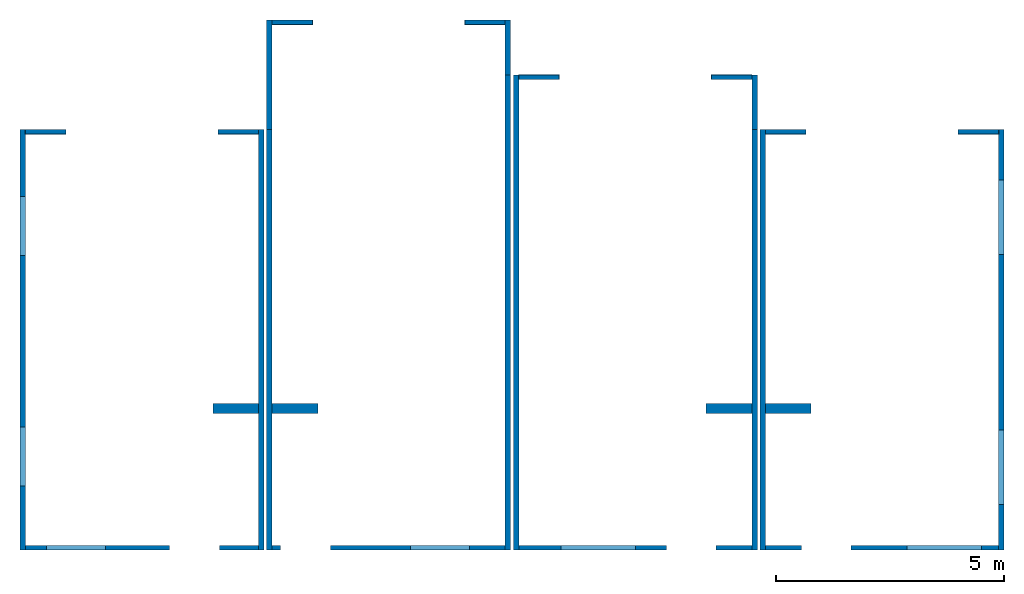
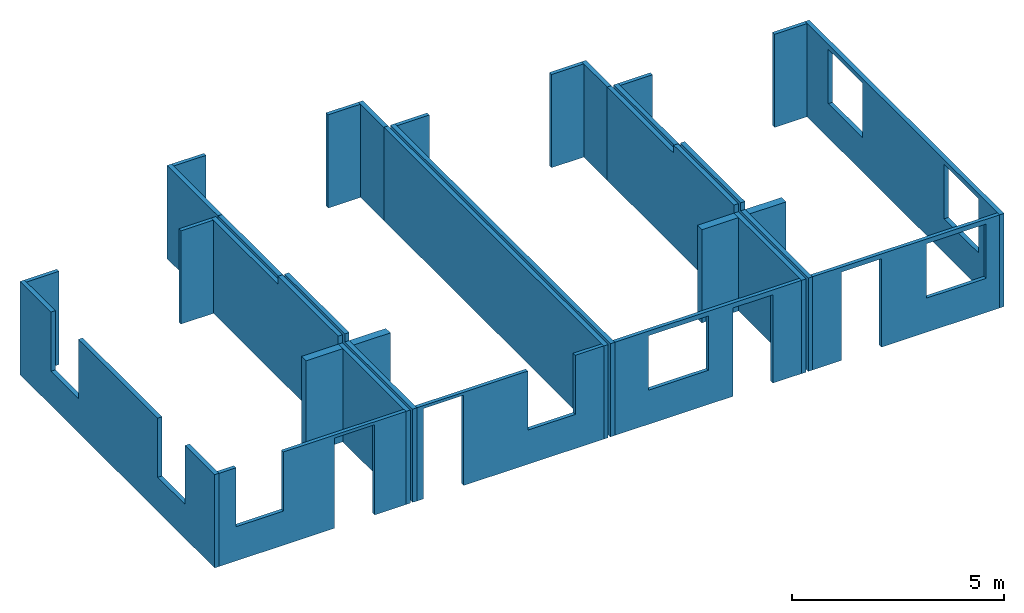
# One storey: 23 walls, 24 openings.
"""IFC2X3 building model written with IfcOpenShell, lengths in millimetres."""

import ifcopenshell
import ifcopenshell.guid

model = None  # the IFC model being written
_history = None  # IfcOwnerHistory: only IFC2X3 demands one
_inside = {}  # id of a spatial element -> (the spatial element, [elements in it])
_under = {}  # id of a project, library or spatial element -> (it, [spatial elements below it])
_declared = {}  # id of a project -> (the project, [libraries it declares])
_typed = {}  # id of a type object -> (the type object, [elements of that type])
_made_of = {}  # id of a material, layer set ... -> (it, [elements and type objects made of it])


def new_model(schema):
    """Start an empty IFC model of exactly this schema.

    Asked for "IFC4X3", IfcOpenShell would pick the latest addendum, in which some entities
    have other attributes; the version numbers below select the first issue.
    IFC2X3 requires an IfcOwnerHistory on every rooted entity: one is made here for all.
    """
    global model, _history
    if schema == "IFC4X3":
        model = ifcopenshell.file(schema_version=(4, 3, 0, 0))
    else:
        model = ifcopenshell.file(schema=schema)
    _inside.clear()
    _under.clear()
    _declared.clear()
    _typed.clear()
    _made_of.clear()
    _history = None
    if model.schema == "IFC2X3":
        org = make("IfcOrganization", Name="unknown")
        user = make(
            "IfcPersonAndOrganization",
            ThePerson=make("IfcPerson", FamilyName="unknown"),
            TheOrganization=org,
        )
        app = make(
            "IfcApplication",
            ApplicationDeveloper=org,
            Version="unknown",
            ApplicationFullName="unknown",
            ApplicationIdentifier="unknown",
        )
        _history = make(
            "IfcOwnerHistory",
            OwningUser=user,
            OwningApplication=app,
            ChangeAction="ADDED",
            CreationDate=0,
        )
    return model


def make(cls, **values):
    """One entity of the class cls with the attributes given. An attribute that is None is left unset."""
    return model.create_entity(
        cls, **{name: value for name, value in values.items() if value is not None}
    )


def entity(cls, *values):
    """Any entity or typed value of the class cls, its attributes in the order of the schema. None: left unset."""
    e = model.create_entity(cls)
    for i, value in enumerate(values):
        if value is not None:
            e[i] = value
    return e


def rooted(cls, **values):
    """An entity with a GlobalId (a new one), such as an element, a storey or a relation."""
    return make(cls, GlobalId=ifcopenshell.guid.new(), OwnerHistory=_history, **values)


def si_unit(unit_type, name, prefix=None):
    """IfcSIUnit, for example si_unit("LENGTHUNIT", "METRE", prefix="MILLI")."""
    return make("IfcSIUnit", UnitType=unit_type, Prefix=prefix, Name=name)


def converted_unit(unit_type, name, factor, base, dimensions=None, offset=None):
    """IfcConversionBasedUnit, such as the inch: factor (a typed value) times the base unit."""
    return make(
        "IfcConversionBasedUnit"
        if offset is None
        else "IfcConversionBasedUnitWithOffset",
        ConversionOffset=offset,
        Dimensions=None
        if dimensions is None
        else entity("IfcDimensionalExponents", *dimensions),
        UnitType=unit_type,
        Name=name,
        ConversionFactor=make(
            "IfcMeasureWithUnit", ValueComponent=factor, UnitComponent=base
        ),
    )


def derived_unit(unit_type, elements):
    """IfcDerivedUnit: a product of units, each with its exponent."""
    return make(
        "IfcDerivedUnit",
        Elements=[
            make("IfcDerivedUnitElement", Unit=unit, Exponent=power)
            for unit, power in elements
        ],
        UnitType=unit_type,
    )


def assignment(units):
    """IfcUnitAssignment: the units of a project."""
    return None if units is None else make("IfcUnitAssignment", Units=units)


def point(xyz):
    """IfcCartesianPoint."""
    return None if xyz is None else make("IfcCartesianPoint", Coordinates=xyz)


def direction(xyz):
    """IfcDirection."""
    return None if xyz is None else make("IfcDirection", DirectionRatios=xyz)


def frame(location, z_axis=None, x_axis=None):
    """IfcAxis2Placement3D, a coordinate frame: its origin and axes. An axis left out is left unset."""
    return make(
        "IfcAxis2Placement3D",
        Location=point(location),
        Axis=direction(z_axis),
        RefDirection=direction(x_axis),
    )


def frame_2d(location, x_axis=None):
    """IfcAxis2Placement2D, a coordinate frame in the plane: its origin and x axis."""
    return make(
        "IfcAxis2Placement2D", Location=point(location), RefDirection=direction(x_axis)
    )


def origin():
    """The frame at (0, 0, 0) with its axes left unset."""
    return frame((0.0, 0.0, 0.0))


def origin_with_axes():
    """The frame at (0, 0, 0) with the z axis (0, 0, 1) and the x axis (1, 0, 0) written out."""
    return frame((0.0, 0.0, 0.0), z_axis=(0.0, 0.0, 1.0), x_axis=(1.0, 0.0, 0.0))


def origin_2d_with_axis():
    """The frame at (0, 0) in the plane with the x axis (1, 0) written out."""
    return frame_2d((0.0, 0.0), x_axis=(1.0, 0.0))


def place(relative_to, where):
    """IfcLocalPlacement: puts the frame where relative to a parent placement (None: the world)."""
    return make(
        "IfcLocalPlacement", PlacementRelTo=relative_to, RelativePlacement=where
    )


def context(
    kind, dimensions, precision=None, world=None, true_north=None, identifier=None
):
    """IfcGeometricRepresentationContext, for example the 3D "Model" context."""
    return make(
        "IfcGeometricRepresentationContext",
        ContextIdentifier=identifier,
        ContextType=kind,
        CoordinateSpaceDimension=dimensions,
        Precision=precision,
        WorldCoordinateSystem=world,
        TrueNorth=true_north,
    )


def subcontext(parent, identifier, kind, view, scale=None):
    """IfcGeometricRepresentationSubContext, for example "Body" below "Model"."""
    return make(
        "IfcGeometricRepresentationSubContext",
        ContextIdentifier=identifier,
        ContextType=kind,
        ParentContext=parent,
        TargetScale=scale,
        TargetView=view,
    )


def project(units=None, contexts=None):
    """IfcProject with its units and contexts."""
    return rooted(
        "IfcProject",
        Name="project",
        RepresentationContexts=contexts,
        UnitsInContext=assignment(units),
    )


def spatial(cls, under=None, at=None, **own):
    """A site, building, storey or space (cls), placed at a placement, below another one or the project."""
    s = rooted(cls, ObjectPlacement=at, **own)
    if under is not None:
        _under.setdefault(under.id(), (under, []))[1].append(s)
    return s


def profile(cls, at=None, kind="AREA", **sizes):
    """A parametric profile (cls). Its sizes go by their IFC names, for example OverallWidth=200.0."""
    return make(cls, ProfileType=kind, Position=at, **sizes)


def rectangle(**sizes):
    """IfcRectangleProfileDef."""
    return profile("IfcRectangleProfileDef", **sizes)


def extrude(swept, where, along, depth):
    """IfcExtrudedAreaSolid: the profile swept, set in the frame where, extruded along a direction by depth."""
    return make(
        "IfcExtrudedAreaSolid",
        SweptArea=swept,
        Position=where,
        ExtrudedDirection=direction(along),
        Depth=depth,
    )


def shape(context_of_items, identifier, shape_type, items):
    """IfcShapeRepresentation: the items that make up one representation, for example the "Body"."""
    return make(
        "IfcShapeRepresentation",
        ContextOfItems=context_of_items,
        RepresentationIdentifier=identifier,
        RepresentationType=shape_type,
        Items=items,
    )


def material(Name=None, Category=None):
    """IfcMaterial."""
    return make("IfcMaterial", Name=Name, Category=Category)


def layer(
    of_material, thickness, ventilated=None, Name=None, Category=None, Priority=None
):
    """IfcMaterialLayer: one layer of a wall or slab, of a material (None: an air gap)."""
    return make(
        "IfcMaterialLayer",
        Material=of_material,
        LayerThickness=thickness,
        IsVentilated=ventilated,
        Name=Name,
        Category=Category,
        Priority=Priority,
    )


def layer_set(layers, Name=None):
    """IfcMaterialLayerSet."""
    return make("IfcMaterialLayerSet", MaterialLayers=layers, LayerSetName=Name)


def layer_usage(for_layer_set, set_direction, sense, offset, extent=None):
    """IfcMaterialLayerSetUsage: how a layer set lies in its element."""
    return make(
        "IfcMaterialLayerSetUsage",
        ForLayerSet=for_layer_set,
        LayerSetDirection=set_direction,
        DirectionSense=sense,
        OffsetFromReferenceLine=offset,
        ReferenceExtent=extent,
    )


def made_of(thing, what):
    """Note that an element or type object is made of a material, layer set ...; save() writes the relation."""
    if what is not None:
        _made_of.setdefault(what.id(), (what, []))[1].append(thing)
    return thing


def type_object(cls, material=None, **own):
    """A type object (cls), such as IfcWallType, which elements share."""
    return made_of(rooted(cls, **own), material)


def element(
    cls,
    number,
    at=None,
    inside=None,
    cuts=None,
    type_object=None,
    material=None,
    context=None,
    identifier="Body",
    shape_type=None,
    held_by="IfcProductDefinitionShape",
    body=None,
    shapes=None,
    **own,
):
    """One element of the class cls, such as IfcWall. Its Tag is "e" and its number.

    at: its placement. inside: the storey or other place that contains it. cuts: it is an
    opening in that element (IfcRelVoidsElement). A single representation is given by context,
    identifier, shape_type and body (its items); several are given by shapes. held_by: the class
    of the entity that holds the representations. save() writes the other relations.
    """
    e = rooted(cls, Tag="e%d" % number, ObjectPlacement=at, **own)
    if body is not None:
        shapes = [shape(context, identifier, shape_type, body)]
    if shapes is not None:
        e.Representation = make(held_by, Representations=shapes)
    if inside is not None:
        _inside.setdefault(inside.id(), (inside, []))[1].append(e)
    if cuts is not None:
        rooted(
            "IfcRelVoidsElement", RelatingBuildingElement=cuts, RelatedOpeningElement=e
        )
    if type_object is not None:
        _typed.setdefault(type_object.id(), (type_object, []))[1].append(e)
    return made_of(e, material)


def aggregate(whole, parts):
    """IfcRelAggregates: a whole, such as a stair, and the parts it consists of."""
    return rooted("IfcRelAggregates", RelatingObject=whole, RelatedObjects=parts)


def save(model, path):
    """Write the relations noted so far, then the file.

    IfcRelAggregates (storeys below a building ...), IfcRelContainedInSpatialStructure (elements
    in a storey), IfcRelDefinesByType, IfcRelAssociatesMaterial and IfcRelDeclares: one each for
    every whole, place, type object, material and project.
    """
    for whole, parts in _under.values():
        aggregate(whole, parts)
    for where, things in _inside.values():
        rooted(
            "IfcRelContainedInSpatialStructure",
            RelatedElements=things,
            RelatingStructure=where,
        )
    for kind, things in _typed.values():
        rooted("IfcRelDefinesByType", RelatedObjects=things, RelatingType=kind)
    for what, things in _made_of.values():
        rooted("IfcRelAssociatesMaterial", RelatedObjects=things, RelatingMaterial=what)
    for by, libraries in _declared.values():
        rooted("IfcRelDeclares", RelatingContext=by, RelatedDefinitions=libraries)
    model.write(path)


model = new_model("IFC2X3")

# Units and contexts
model_context_1 = context("Model", 3, precision=0.01, world=origin(), true_north=direction((6.12303176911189e-17, 1.0)))
plan_context = context("Plan", 3, precision=0.01, world=origin(), true_north=direction((6.12303176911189e-17, 1.0)))
model_context_2 = context("Model", 3, precision=0.01, world=origin(), true_north=direction((6.12303176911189e-17, 1.0)))
body_context = subcontext(model_context_2, "Body", "Model", "MODEL_VIEW")
ifc_project = project(units=[converted_unit("PLANEANGLEUNIT", "DEGREE", entity("IfcPositiveLengthMeasure", 0.0174532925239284), si_unit("PLANEANGLEUNIT", "RADIAN"), dimensions=[0, 0, 0, 0, 0, 0, 0]), si_unit("AREAUNIT", "SQUARE_METRE", prefix="MILLI"), si_unit("LENGTHUNIT", "METRE", prefix="MILLI"), si_unit("MASSUNIT", "GRAM", prefix="KILO"), si_unit("POWERUNIT", "WATT"), si_unit("PRESSUREUNIT", "PASCAL"), si_unit("FORCEUNIT", "NEWTON", prefix="KILO"), si_unit("ELECTRICCURRENTUNIT", "AMPERE"), si_unit("THERMODYNAMICTEMPERATUREUNIT", "DEGREE_CELSIUS"), si_unit("TIMEUNIT", "SECOND"), si_unit("VOLUMEUNIT", "CUBIC_METRE"), derived_unit("LINEARVELOCITYUNIT", [(si_unit("LENGTHUNIT", "METRE"), 1), (si_unit("TIMEUNIT", "SECOND"), -1)]), derived_unit("VOLUMETRICFLOWRATEUNIT", [(si_unit("VOLUMEUNIT", "CUBIC_METRE"), 1), (si_unit("TIMEUNIT", "SECOND"), -1)]), derived_unit("THERMALTRANSMITTANCEUNIT", [(si_unit("POWERUNIT", "WATT"), 1), (si_unit("THERMODYNAMICTEMPERATUREUNIT", "KELVIN"), -1), (si_unit("AREAUNIT", "SQUARE_METRE"), -1)]), derived_unit("SOUNDPRESSUREUNIT", [(si_unit("PRESSUREUNIT", "PASCAL"), 1)])], contexts=[model_context_1, plan_context])

# Site, building, storey
site_placement = place(None, origin_with_axes())
site = spatial("IfcSite", under=ifc_project, at=site_placement, Name="Harderwijk", CompositionType="ELEMENT")
building_placement = place(site_placement, origin_with_axes())
building = spatial("IfcBuilding", under=site, at=building_placement, CompositionType="ELEMENT")
storey_placement = place(building_placement, origin_with_axes())
storey = spatial("IfcBuildingStorey", under=building, at=storey_placement, Name="00 begane grond", CompositionType="ELEMENT", Elevation=0.0)

# Wall
ifc_material_1 = material(Name="kalkzandsteen_CS12")
ifc_layer_1 = layer(ifc_material_1, 120.0)
ifc_layer_set_1 = layer_set([ifc_layer_1], Name="Basic Wall:22_kalkzandsteen element_CS12_120mm")
ifc_layer_usage_1 = layer_usage(ifc_layer_set_1, "AXIS2", "POSITIVE", -60.0)
wall_type_1 = type_object("IfcWallType", Name="22_kalkzandsteen element_CS12_120mm", PredefinedType="STANDARD", material=ifc_layer_set_1)
wall_1_placement = place(storey_placement, frame((20710.0, 20400.0, -70.0), z_axis=(0.0, 0.0, 1.0), x_axis=(0.0, -1.0, 0.0)))
element("IfcWallStandardCase", 1, at=wall_1_placement, inside=storey, type_object=wall_type_1, material=ifc_layer_usage_1, Name="Basic Wall:22_kalkzandsteen element_CS12_120mm", ObjectType="Basic Wall:22_kalkzandsteen element_CS12_120mm", context=body_context, shape_type="SweptSolid", body=[
    extrude(rectangle(XDim=10400.0000000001, YDim=119.999999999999, at=frame_2d((5200.00000000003, -8.17124146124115e-13), x_axis=(-1.0, 0.0))), origin(), (0.0, 0.0, 1.0), 2690.0),
])

# Wall, openings
ifc_layer_usage_2 = layer_usage(ifc_layer_set_1, "AXIS2", "POSITIVE", -60.0)
wall_2_placement = place(storey_placement, frame((15310.0, 19200.0, -70.0), z_axis=(0.0, 0.0, 1.0), x_axis=(0.0, -1.0, 0.0)))
wall_2 = element("IfcWallStandardCase", 2, at=wall_2_placement, inside=storey, type_object=wall_type_1, material=ifc_layer_usage_2, Name="Basic Wall:22_kalkzandsteen element_CS12_120mm", ObjectType="Basic Wall:22_kalkzandsteen element_CS12_120mm", context=body_context, shape_type="SweptSolid", body=[
    extrude(rectangle(XDim=9200.00000000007, YDim=119.999999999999, at=frame_2d((4600.00000000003, -5.54223333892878e-13), x_axis=(-1.0, 0.0))), origin(), (0.0, 0.0, 1.0), 2919.99999999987),
])
opening_1_placement = place(wall_2_placement, origin_with_axes())
element("IfcOpeningElement", 3, at=opening_1_placement, cuts=wall_2, Name="Basic Wall:22_kalkzandsteen element_CS12_120mm", ObjectType="Opening", context=body_context, shape_type="SweptSolid", body=[
    extrude(rectangle(XDim=229.99999999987, YDim=3200.0000000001, at=frame_2d((2.70006239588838e-13, 0.0), x_axis=(1.0, 0.0))), frame((7600.0, 60.0, 2805.0), z_axis=(0.0, -1.0, 0.0), x_axis=(0.0, 0.0, 1.0)), (0.0, 0.0, 1.0), 120.0),
])
opening_2_placement = place(wall_2_placement, origin_with_axes())
element("IfcOpeningElement", 4, at=opening_2_placement, cuts=wall_2, Name="Basic Wall:22_kalkzandsteen element_CS12_120mm", ObjectType="Opening", context=body_context, shape_type="SweptSolid", body=[
    extrude(rectangle(XDim=229.999999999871, YDim=3150.00000000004, at=frame_2d((0.0, 0.0), x_axis=(0.0, 1.0))), frame((1575.0, 60.0, 2805.0), z_axis=(0.0, -1.0, 0.0), x_axis=(-1.0, 0.0, 0.0)), (0.0, 0.0, 1.0), 120.0),
])

ifc_layer_usage_3 = layer_usage(ifc_layer_set_1, "AXIS2", "POSITIVE", -60.0)
wall_3_placement = place(storey_placement, frame((15490.0, 19200.0, -70.0), z_axis=(0.0, 0.0, 1.0), x_axis=(0.0, -1.0, 0.0)))
wall_3 = element("IfcWallStandardCase", 5, at=wall_3_placement, inside=storey, type_object=wall_type_1, material=ifc_layer_usage_3, Name="Basic Wall:22_kalkzandsteen element_CS12_120mm", ObjectType="Basic Wall:22_kalkzandsteen element_CS12_120mm", context=body_context, shape_type="SweptSolid", body=[
    extrude(rectangle(XDim=9200.00000000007, YDim=119.999999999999, at=frame_2d((4600.00000000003, -5.54223333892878e-13), x_axis=(-1.0, 0.0))), origin(), (0.0, 0.0, 1.0), 2919.99999999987),
])
opening_3_placement = place(wall_3_placement, origin_with_axes())
element("IfcOpeningElement", 6, at=opening_3_placement, cuts=wall_3, Name="Basic Wall:22_kalkzandsteen element_CS12_120mm", ObjectType="Opening", context=body_context, shape_type="SweptSolid", body=[
    extrude(rectangle(XDim=229.99999999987, YDim=3200.00000000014, at=frame_2d((2.70006239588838e-13, 1.13686837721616e-12), x_axis=(1.0, 0.0))), frame((7600.0, 60.0, 2805.0), z_axis=(0.0, -1.0, 0.0), x_axis=(0.0, 0.0, 1.0)), (0.0, 0.0, 1.0), 120.0),
])
opening_4_placement = place(wall_3_placement, origin_with_axes())
element("IfcOpeningElement", 7, at=opening_4_placement, cuts=wall_3, Name="Basic Wall:22_kalkzandsteen element_CS12_120mm", ObjectType="Opening", context=body_context, shape_type="SweptSolid", body=[
    extrude(rectangle(XDim=229.999999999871, YDim=3150.00000000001, at=frame_2d((0.0, 0.0), x_axis=(0.0, 1.0))), frame((1575.0, 60.0, 2805.0), z_axis=(0.0, -1.0, 0.0), x_axis=(-1.0, 0.0, 0.0)), (0.0, 0.0, 1.0), 120.0),
])

# Wall
ifc_layer_usage_4 = layer_usage(ifc_layer_set_1, "AXIS2", "POSITIVE", -60.0)
wall_4_placement = place(storey_placement, frame((20890.0, 20400.0, -70.0), z_axis=(0.0, 0.0, 1.0), x_axis=(0.0, -1.0, 0.0)))
element("IfcWallStandardCase", 8, at=wall_4_placement, inside=storey, type_object=wall_type_1, material=ifc_layer_usage_4, Name="Basic Wall:22_kalkzandsteen element_CS12_120mm", ObjectType="Basic Wall:22_kalkzandsteen element_CS12_120mm", context=body_context, shape_type="SweptSolid", body=[
    extrude(rectangle(XDim=10400.0, YDim=119.999999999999, at=frame_2d((5200.0, -8.17124146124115e-13), x_axis=(-1.0, 0.0))), origin(), (0.0, 0.0, 1.0), 2690.0),
])

# Wall, openings
ifc_layer_usage_5 = layer_usage(ifc_layer_set_1, "AXIS2", "POSITIVE", -60.0)
wall_5_placement = place(storey_placement, frame((26290.0, 19200.0, -70.0), z_axis=(0.0, 0.0, 1.0), x_axis=(0.0, -1.0, 0.0)))
wall_5 = element("IfcWallStandardCase", 9, at=wall_5_placement, inside=storey, type_object=wall_type_1, material=ifc_layer_usage_5, Name="Basic Wall:22_kalkzandsteen element_CS12_120mm", ObjectType="Basic Wall:22_kalkzandsteen element_CS12_120mm", context=body_context, shape_type="SweptSolid", body=[
    extrude(rectangle(XDim=9200.00000000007, YDim=119.999999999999, at=frame_2d((4600.00000000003, 5.29354338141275e-13), x_axis=(-1.0, 0.0))), origin(), (0.0, 0.0, 1.0), 2919.99999999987),
])
opening_5_placement = place(wall_5_placement, origin_with_axes())
element("IfcOpeningElement", 10, at=opening_5_placement, cuts=wall_5, Name="Basic Wall:22_kalkzandsteen element_CS12_120mm", ObjectType="Opening", context=body_context, shape_type="SweptSolid", body=[
    extrude(rectangle(XDim=229.99999999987, YDim=3200.00000000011, at=frame_2d((2.70006239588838e-13, 1.13686837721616e-12), x_axis=(1.0, 0.0))), frame((7600.0, 60.0, 2805.0), z_axis=(0.0, -1.0, 0.0), x_axis=(0.0, 0.0, 1.0)), (0.0, 0.0, 1.0), 120.0),
])
opening_6_placement = place(wall_5_placement, origin_with_axes())
element("IfcOpeningElement", 11, at=opening_6_placement, cuts=wall_5, Name="Basic Wall:22_kalkzandsteen element_CS12_120mm", ObjectType="Opening", context=body_context, shape_type="SweptSolid", body=[
    extrude(rectangle(XDim=229.999999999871, YDim=3150.00000000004, at=frame_2d((1.02318153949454e-12, 0.0), x_axis=(0.0, 1.0))), frame((1575.0, 60.0, 2805.0), z_axis=(0.0, -1.0, 0.0), x_axis=(-1.0, 0.0, 0.0)), (0.0, 0.0, 1.0), 120.0),
])

ifc_layer_usage_6 = layer_usage(ifc_layer_set_1, "AXIS2", "POSITIVE", -60.0)
wall_6_placement = place(storey_placement, frame((26110.0, 19200.0, -70.0), z_axis=(0.0, 0.0, 1.0), x_axis=(0.0, -1.0, 0.0)))
wall_6 = element("IfcWallStandardCase", 12, at=wall_6_placement, inside=storey, type_object=wall_type_1, material=ifc_layer_usage_6, Name="Basic Wall:22_kalkzandsteen element_CS12_120mm", ObjectType="Basic Wall:22_kalkzandsteen element_CS12_120mm", context=body_context, shape_type="SweptSolid", body=[
    extrude(rectangle(XDim=9200.00000000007, YDim=119.999999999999, at=frame_2d((4600.00000000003, 5.29354338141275e-13), x_axis=(-1.0, 0.0))), origin(), (0.0, 0.0, 1.0), 2919.99999999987),
])
opening_7_placement = place(wall_6_placement, origin_with_axes())
element("IfcOpeningElement", 13, at=opening_7_placement, cuts=wall_6, Name="Basic Wall:22_kalkzandsteen element_CS12_120mm", ObjectType="Opening", context=body_context, shape_type="SweptSolid", body=[
    extrude(rectangle(XDim=229.999999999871, YDim=3150.0, at=frame_2d((0.0, -2.70006239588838e-13), x_axis=(0.0, 1.0))), frame((1575.0, 60.0, 2805.0), z_axis=(0.0, -1.0, 0.0), x_axis=(1.0, 0.0, 0.0)), (0.0, 0.0, 1.0), 120.0),
])
opening_8_placement = place(wall_6_placement, origin_with_axes())
element("IfcOpeningElement", 14, at=opening_8_placement, cuts=wall_6, Name="Basic Wall:22_kalkzandsteen element_CS12_120mm", ObjectType="Opening", context=body_context, shape_type="SweptSolid", body=[
    extrude(rectangle(XDim=229.999999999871, YDim=3200.00000000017, at=frame_2d((2.70006239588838e-13, 0.0), x_axis=(1.0, 0.0))), frame((7600.0, 60.0, 2805.0), z_axis=(0.0, -1.0, 0.0), x_axis=(0.0, 0.0, -1.0)), (0.0, 0.0, 1.0), 120.0),
])

# Wall
ifc_layer_2 = layer(ifc_material_1, 120.0)
ifc_layer_set_2 = layer_set([ifc_layer_2], Name="Basic Wall:21_kalkzandsteen element_CS12_120mm")
ifc_layer_usage_7 = layer_usage(ifc_layer_set_2, "AXIS2", "POSITIVE", -60.0)
wall_type_2 = type_object("IfcWallType", Name="21_kalkzandsteen element_CS12_120mm", PredefinedType="STANDARD", material=ifc_layer_set_2)
wall_7_placement = place(storey_placement, frame((26110.0, 20400.0, -70.0), z_axis=(0.0, 0.0, 1.0), x_axis=(0.0, -1.0, 0.0)))
element("IfcWallStandardCase", 15, at=wall_7_placement, inside=storey, type_object=wall_type_2, material=ifc_layer_usage_7, Name="Basic Wall:21_kalkzandsteen element_CS12_120mm", ObjectType="Basic Wall:21_kalkzandsteen element_CS12_120mm", context=body_context, shape_type="SweptSolid", body=[
    extrude(rectangle(XDim=1200.0, YDim=119.999999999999, at=frame_2d((600.0, -1.34647848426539e-12), x_axis=(-1.0, 0.0))), origin(), (0.0, 0.0, 1.0), 2690.0),
])

# Wall, openings
ifc_layer_usage_8 = layer_usage(ifc_layer_set_2, "AXIS2", "POSITIVE", -60.0)
wall_8_placement = place(storey_placement, frame((31510.0, 19200.0, -70.0), z_axis=(0.0, 0.0, 1.0), x_axis=(0.0, -1.0, 0.0)))
wall_8 = element("IfcWallStandardCase", 16, at=wall_8_placement, inside=storey, type_object=wall_type_2, material=ifc_layer_usage_8, Name="Basic Wall:21_kalkzandsteen element_CS12_120mm", ObjectType="Basic Wall:21_kalkzandsteen element_CS12_120mm", context=body_context, shape_type="SweptSolid", body=[
    extrude(rectangle(XDim=9200.0, YDim=119.999999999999, at=frame_2d((4600.0, 5.29354338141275e-13), x_axis=(-1.0, 0.0))), origin(), (0.0, 0.0, 1.0), 2690.0),
])
opening_9_placement = place(wall_8_placement, frame((2731.0, -1584.0, 985.0), z_axis=(0.0, 0.0, 1.0), x_axis=(0.0, 1.0, 0.0)))
element("IfcOpeningElement", 17, at=opening_9_placement, cuts=wall_8, Name="Basic Wall:21_kalkzandsteen element_CS12_120mm", ObjectType="Opening", context=body_context, shape_type="SweptSolid", body=[
    extrude(rectangle(XDim=1570.0, YDim=1632.0, at=frame_2d((0.0, 1.08002495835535e-12), x_axis=(1.0, 0.0))), frame((0.0, 816.0, 785.0), z_axis=(1.0, 0.0, 0.0), x_axis=(0.0, 0.0, -1.0)), (0.0, 0.0, 1.0), 3048.0),
])
opening_10_placement = place(wall_8_placement, frame((8211.0, -1584.0, 985.0), z_axis=(0.0, 0.0, 1.0), x_axis=(0.0, 1.0, 0.0)))
element("IfcOpeningElement", 18, at=opening_10_placement, cuts=wall_8, Name="Basic Wall:21_kalkzandsteen element_CS12_120mm", ObjectType="Opening", context=body_context, shape_type="SweptSolid", body=[
    extrude(rectangle(XDim=1570.0, YDim=1632.0, at=frame_2d((0.0, 1.08002495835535e-12), x_axis=(1.0, 0.0))), frame((0.0, 816.0, 785.0), z_axis=(1.0, 0.0, 0.0), x_axis=(0.0, 0.0, -1.0)), (0.0, 0.0, 1.0), 3048.0),
])

ifc_layer_usage_9 = layer_usage(ifc_layer_set_2, "AXIS2", "POSITIVE", -60.0)
wall_9_placement = place(storey_placement, frame((10090.0, 19200.0, -70.0), z_axis=(0.0, 0.0, 1.0), x_axis=(0.0, -1.0, 0.0)))
wall_9 = element("IfcWallStandardCase", 19, at=wall_9_placement, inside=storey, type_object=wall_type_2, material=ifc_layer_usage_9, Name="Basic Wall:21_kalkzandsteen element_CS12_120mm", ObjectType="Basic Wall:21_kalkzandsteen element_CS12_120mm", context=body_context, shape_type="SweptSolid", body=[
    extrude(rectangle(XDim=9200.0, YDim=119.999999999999, at=frame_2d((4600.0, -5.54223333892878e-13), x_axis=(-1.0, 0.0))), origin(), (0.0, 0.0, 1.0), 2690.0),
])
opening_11_placement = place(wall_9_placement, frame((7801.0, -1584.0, 985.0), z_axis=(0.0, 0.0, 1.0), x_axis=(0.0, 1.0, 0.0)))
element("IfcOpeningElement", 20, at=opening_11_placement, cuts=wall_9, Name="Basic Wall:21_kalkzandsteen element_CS12_120mm", ObjectType="Opening", context=body_context, shape_type="SweptSolid", body=[
    extrude(rectangle(XDim=1705.00000000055, YDim=1292.0, at=frame_2d((-1.13686837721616e-13, 0.0), x_axis=(1.0, 0.0))), frame((0.0, 646.0, 852.500000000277), z_axis=(1.0, 0.0, 0.0), x_axis=(0.0, 0.0, -1.0)), (0.0, 0.0, 1.0), 3048.0),
])
opening_12_placement = place(wall_9_placement, frame((2755.0, -1584.0, 985.0), z_axis=(0.0, 0.0, 1.0), x_axis=(0.0, 1.0, 0.0)))
element("IfcOpeningElement", 21, at=opening_12_placement, cuts=wall_9, Name="Basic Wall:21_kalkzandsteen element_CS12_120mm", ObjectType="Opening", context=body_context, shape_type="SweptSolid", body=[
    extrude(rectangle(XDim=1705.00000000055, YDim=1292.0, at=origin_2d_with_axis()), frame((0.0, 646.0, 852.500000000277), z_axis=(1.0, 0.0, 0.0), x_axis=(0.0, 0.0, -1.0)), (0.0, 0.0, 1.0), 3048.0),
])

# Walls
ifc_layer_usage_10 = layer_usage(ifc_layer_set_2, "AXIS2", "NEGATIVE", 60.0)
wall_10_placement = place(storey_placement, frame((15490.0, 19200.0, -70.0), z_axis=(0.0, 0.0, 1.0), x_axis=(0.0, 1.0, 0.0)))
element("IfcWallStandardCase", 22, at=wall_10_placement, inside=storey, type_object=wall_type_2, material=ifc_layer_usage_10, Name="Basic Wall:21_kalkzandsteen element_CS12_120mm", ObjectType="Basic Wall:21_kalkzandsteen element_CS12_120mm", context=body_context, shape_type="SweptSolid", body=[
    extrude(rectangle(XDim=2399.99999999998, YDim=119.999999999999, at=frame_2d((1199.99999999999, 0.0), x_axis=(-1.0, 0.0))), origin(), (0.0, 0.0, 1.0), 2690.0),
])
ifc_layer_usage_11 = layer_usage(ifc_layer_set_2, "AXIS2", "NEGATIVE", 60.0)
wall_11_placement = place(storey_placement, frame((20710.0, 20400.0, -70.0), z_axis=(0.0, 0.0, 1.0), x_axis=(0.0, 1.0, 0.0)))
element("IfcWallStandardCase", 23, at=wall_11_placement, inside=storey, type_object=wall_type_2, material=ifc_layer_usage_11, Name="Basic Wall:21_kalkzandsteen element_CS12_120mm", ObjectType="Basic Wall:21_kalkzandsteen element_CS12_120mm", context=body_context, shape_type="SweptSolid", body=[
    extrude(rectangle(XDim=1199.99999999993, YDim=119.999999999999, at=frame_2d((599.999999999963, 1.50279788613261e-12), x_axis=(-1.0, 0.0))), origin(), (0.0, 0.0, 1.0), 2690.0),
])
ifc_material_2 = material(Name="kalkzandsteen_CS36")
ifc_layer_3 = layer(ifc_material_2, 214.0)
ifc_layer_set_3 = layer_set([ifc_layer_3], Name="Basic Wall:22_kalkzandsteen element_CS36_214mm")
ifc_layer_usage_12 = layer_usage(ifc_layer_set_3, "AXIS2", "POSITIVE", -107.0)
wall_type_3 = type_object("IfcWallType", Name="22_kalkzandsteen element_CS36_214mm", PredefinedType="STANDARD", material=ifc_layer_set_3)
wall_12_placement = place(storey_placement, frame((14250.0, 13093.0, -70.0), z_axis=(0.0, 0.0, 1.0), x_axis=(1.0, 0.0, 0.0)))
element("IfcWallStandardCase", 24, at=wall_12_placement, inside=storey, type_object=wall_type_3, material=ifc_layer_usage_12, Name="Basic Wall:22_kalkzandsteen element_CS36_214mm", ObjectType="Basic Wall:22_kalkzandsteen element_CS36_214mm", context=body_context, shape_type="SweptSolid", body=[
    extrude(rectangle(XDim=1000.00000000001, YDim=213.999999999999, at=frame_2d((500.000000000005, -5.61328761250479e-13), x_axis=(-1.0, 0.0))), origin(), (0.0, 0.0, 1.0), 2690.0),
])
ifc_layer_usage_13 = layer_usage(ifc_layer_set_3, "AXIS2", "NEGATIVE", 107.0)
wall_13_placement = place(storey_placement, frame((16550.0, 13093.0, -70.0), z_axis=(0.0, 0.0, 1.0), x_axis=(-1.0, 0.0, 0.0)))
element("IfcWallStandardCase", 25, at=wall_13_placement, inside=storey, type_object=wall_type_3, material=ifc_layer_usage_13, Name="Basic Wall:22_kalkzandsteen element_CS36_214mm", ObjectType="Basic Wall:22_kalkzandsteen element_CS36_214mm", context=body_context, shape_type="SweptSolid", body=[
    extrude(rectangle(XDim=999.999999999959, YDim=213.999999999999, at=frame_2d((499.999999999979, 5.54223333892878e-13), x_axis=(-1.0, 0.0))), origin(), (0.0, 0.0, 1.0), 2690.0),
])
ifc_layer_usage_14 = layer_usage(ifc_layer_set_3, "AXIS2", "POSITIVE", -107.0)
wall_14_placement = place(storey_placement, frame((25050.0, 13093.0, -70.0), z_axis=(0.0, 0.0, 1.0), x_axis=(1.0, 0.0, 0.0)))
element("IfcWallStandardCase", 26, at=wall_14_placement, inside=storey, type_object=wall_type_3, material=ifc_layer_usage_14, Name="Basic Wall:22_kalkzandsteen element_CS36_214mm", ObjectType="Basic Wall:22_kalkzandsteen element_CS36_214mm", context=body_context, shape_type="SweptSolid", body=[
    extrude(rectangle(XDim=1000.00000000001, YDim=213.999999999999, at=frame_2d((500.000000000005, -5.61328761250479e-13), x_axis=(-1.0, 0.0))), origin(), (0.0, 0.0, 1.0), 2690.0),
])
ifc_layer_usage_15 = layer_usage(ifc_layer_set_3, "AXIS2", "NEGATIVE", 107.0)
wall_15_placement = place(storey_placement, frame((27350.0, 13093.0, -70.0), z_axis=(0.0, 0.0, 1.0), x_axis=(-1.0, 0.0, 0.0)))
element("IfcWallStandardCase", 27, at=wall_15_placement, inside=storey, type_object=wall_type_3, material=ifc_layer_usage_15, Name="Basic Wall:22_kalkzandsteen element_CS36_214mm", ObjectType="Basic Wall:22_kalkzandsteen element_CS36_214mm", context=body_context, shape_type="SweptSolid", body=[
    extrude(rectangle(XDim=1000.00000000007, YDim=213.999999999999, at=frame_2d((500.000000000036, 5.54223333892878e-13), x_axis=(-1.0, 0.0))), origin(), (0.0, 0.0, 1.0), 2690.0),
])

# Wall, openings
ifc_layer_4 = layer(ifc_material_1, 100.0)
ifc_layer_set_4 = layer_set([ifc_layer_4], Name="Basic Wall:21_kalkzandsteen element_CS12_100mm")
ifc_layer_usage_16 = layer_usage(ifc_layer_set_4, "AXIS2", "POSITIVE", -50.0)
wall_type_4 = type_object("IfcWallType", Name="21_kalkzandsteen element_CS12_100mm", PredefinedType="STANDARD", material=ifc_layer_set_4)
wall_16_placement = place(storey_placement, frame((20950.0, 10050.0, -70.0), z_axis=(0.0, 0.0, 1.0), x_axis=(1.0, 0.0, 0.0)))
wall_16 = element("IfcWallStandardCase", 28, at=wall_16_placement, inside=storey, type_object=wall_type_4, material=ifc_layer_usage_16, Name="Basic Wall:21_kalkzandsteen element_CS12_100mm", ObjectType="Basic Wall:21_kalkzandsteen element_CS12_100mm", context=body_context, shape_type="SweptSolid", body=[
    extrude(rectangle(XDim=5099.99999999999, YDim=99.9999999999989, at=frame_2d((2549.99999999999, -9.2370555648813e-13), x_axis=(-1.0, 0.0))), origin(), (0.0, 0.0, 1.0), 2690.0),
])
opening_13_placement = place(wall_16_placement, frame((3229.0, -400.0, 0.0), z_axis=(0.0, 0.0, 1.0), x_axis=(1.0, 0.0, 0.0)))
element("IfcOpeningElement", 29, at=opening_13_placement, cuts=wall_16, Name="Basic Wall:21_kalkzandsteen element_CS12_100mm", ObjectType="Opening", context=body_context, shape_type="SweptSolid", body=[
    extrude(rectangle(XDim=2550.0, YDim=1082.0, at=frame_2d((0.0, 2.1600499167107e-12), x_axis=(1.0, 0.0))), frame((541.0, 0.0, 1275.0), z_axis=(0.0, 1.0, 0.0), x_axis=(0.0, 0.0, -1.0)), (0.0, 0.0, 1.0), 800.000000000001),
])
opening_14_placement = place(wall_16_placement, frame((919.0, -1474.0, 985.0), z_axis=(0.0, 0.0, 1.0), x_axis=(1.0, 0.0, 0.0)))
element("IfcOpeningElement", 30, at=opening_14_placement, cuts=wall_16, Name="Basic Wall:21_kalkzandsteen element_CS12_100mm", ObjectType="Opening", context=body_context, shape_type="SweptSolid", body=[
    extrude(rectangle(XDim=1570.0, YDim=1632.0, at=origin_2d_with_axis()), frame((816.0, 0.0, 785.0), z_axis=(0.0, 1.0, 0.0), x_axis=(0.0, 0.0, -1.0)), (0.0, 0.0, 1.0), 3048.0),
])

ifc_layer_usage_17 = layer_usage(ifc_layer_set_4, "AXIS2", "POSITIVE", -50.0)
wall_17_placement = place(storey_placement, frame((10150.0, 10050.0, -70.0), z_axis=(0.0, 0.0, 1.0), x_axis=(1.0, 0.0, 0.0)))
wall_17 = element("IfcWallStandardCase", 31, at=wall_17_placement, inside=storey, type_object=wall_type_4, material=ifc_layer_usage_17, Name="Basic Wall:21_kalkzandsteen element_CS12_100mm", ObjectType="Basic Wall:21_kalkzandsteen element_CS12_100mm", context=body_context, shape_type="SweptSolid", body=[
    extrude(rectangle(XDim=5099.99999999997, YDim=99.9999999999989, at=frame_2d((2549.99999999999, -9.2370555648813e-13), x_axis=(-1.0, 0.0))), origin(), (0.0, 0.0, 1.0), 2690.0),
])
opening_15_placement = place(wall_17_placement, frame((465.0, -1474.0, 985.0), z_axis=(0.0, 0.0, 1.0), x_axis=(1.0, 0.0, 0.0)))
element("IfcOpeningElement", 32, at=opening_15_placement, cuts=wall_17, Name="Basic Wall:21_kalkzandsteen element_CS12_100mm", ObjectType="Opening", context=body_context, shape_type="SweptSolid", body=[
    extrude(rectangle(XDim=1705.0, YDim=1292.0, at=frame_2d((0.0, -1.08002495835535e-12), x_axis=(1.0, 0.0))), frame((646.0, 0.0, 852.5), z_axis=(0.0, 1.0, 0.0), x_axis=(0.0, 0.0, -1.0)), (0.0, 0.0, 1.0), 3048.0),
])
opening_16_placement = place(wall_17_placement, frame((3156.0, -400.0, 0.0), z_axis=(0.0, 0.0, 1.0), x_axis=(1.0, 0.0, 0.0)))
element("IfcOpeningElement", 33, at=opening_16_placement, cuts=wall_17, Name="Basic Wall:21_kalkzandsteen element_CS12_100mm", ObjectType="Opening", context=body_context, shape_type="SweptSolid", body=[
    extrude(rectangle(XDim=2605.0, YDim=1088.0, at=origin_2d_with_axis()), frame((544.0, 0.0, 1302.5), z_axis=(0.0, 1.0, 0.0), x_axis=(0.0, 0.0, -1.0)), (0.0, 0.0, 1.0), 799.999999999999),
])

ifc_layer_usage_18 = layer_usage(ifc_layer_set_4, "AXIS2", "NEGATIVE", 50.0)
wall_18_placement = place(storey_placement, frame((31450.0, 10050.0, -70.0), z_axis=(0.0, 0.0, 1.0), x_axis=(-1.0, 0.0, 0.0)))
wall_18 = element("IfcWallStandardCase", 34, at=wall_18_placement, inside=storey, type_object=wall_type_4, material=ifc_layer_usage_18, Name="Basic Wall:21_kalkzandsteen element_CS12_100mm", ObjectType="Basic Wall:21_kalkzandsteen element_CS12_100mm", context=body_context, shape_type="SweptSolid", body=[
    extrude(rectangle(XDim=5099.99999999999, YDim=99.9999999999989, at=frame_2d((2550.0, 9.27258270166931e-13), x_axis=(-1.0, 0.0))), origin(), (0.0, 0.0, 1.0), 2690.0),
])
opening_17_placement = place(wall_18_placement, frame((4311.0, 400.0, 0.0), z_axis=(0.0, 0.0, 1.0), x_axis=(-1.0, 0.0, 0.0)))
element("IfcOpeningElement", 35, at=opening_17_placement, cuts=wall_18, Name="Basic Wall:21_kalkzandsteen element_CS12_100mm", ObjectType="Opening", context=body_context, shape_type="SweptSolid", body=[
    extrude(rectangle(XDim=2550.0, YDim=1082.0, at=frame_2d((0.0, 2.1600499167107e-12), x_axis=(1.0, 0.0))), frame((541.0, 800.0, 1275.0), z_axis=(0.0, -1.0, 0.0), x_axis=(0.0, 0.0, -1.0)), (0.0, 0.0, 1.0), 800.0),
])
opening_18_placement = place(wall_18_placement, frame((2001.0, 1474.0, 985.0), z_axis=(0.0, 0.0, 1.0), x_axis=(-1.0, 0.0, 0.0)))
element("IfcOpeningElement", 36, at=opening_18_placement, cuts=wall_18, Name="Basic Wall:21_kalkzandsteen element_CS12_100mm", ObjectType="Opening", context=body_context, shape_type="SweptSolid", body=[
    extrude(rectangle(XDim=1570.0, YDim=1632.0, at=frame_2d((0.0, -4.37694325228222e-12), x_axis=(1.0, 0.0))), frame((816.0, 3048.0, 785.0), z_axis=(0.0, -1.0, 0.0), x_axis=(0.0, 0.0, -1.0)), (0.0, 0.0, 1.0), 3048.0),
])

# Wall, opening
ifc_layer_usage_19 = layer_usage(ifc_layer_set_4, "AXIS2", "NEGATIVE", 50.0)
wall_19_placement = place(storey_placement, frame((10150.0, 19150.0, -70.0), z_axis=(0.0, 0.0, 1.0), x_axis=(1.0, 0.0, 0.0)))
wall_19 = element("IfcWallStandardCase", 37, at=wall_19_placement, inside=storey, type_object=wall_type_4, material=ifc_layer_usage_19, Name="Basic Wall:21_kalkzandsteen element_CS12_100mm", ObjectType="Basic Wall:21_kalkzandsteen element_CS12_100mm", context=body_context, shape_type="SweptSolid", body=[
    extrude(rectangle(XDim=5099.99999999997, YDim=99.9999999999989, at=frame_2d((2549.99999999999, 3.94351218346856e-13), x_axis=(-1.0, 0.0))), origin(), (0.0, 0.0, 1.0), 2690.0),
])
opening_19_placement = place(wall_19_placement, frame((883.0, -400.0, 0.0), z_axis=(0.0, 0.0, 1.0), x_axis=(1.0, 0.0, 0.0)))
element("IfcOpeningElement", 38, at=opening_19_placement, cuts=wall_19, Name="Basic Wall:21_kalkzandsteen element_CS12_100mm", ObjectType="Opening", context=body_context, shape_type="SweptSolid", body=[
    extrude(rectangle(XDim=2690.0, YDim=3334.0, at=frame_2d((0.0, 0.0), x_axis=(0.0, 1.0))), frame((1667.0, 0.0, 1345.0), z_axis=(0.0, 1.0, 0.0), x_axis=(1.0, 0.0, 0.0)), (0.0, 0.0, 1.0), 800.000000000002),
])

ifc_layer_usage_20 = layer_usage(ifc_layer_set_4, "AXIS2", "NEGATIVE", 50.0)
wall_20_placement = place(storey_placement, frame((20950.0, 20350.0, -70.0), z_axis=(0.0, 0.0, 1.0), x_axis=(1.0, 0.0, 0.0)))
wall_20 = element("IfcWallStandardCase", 39, at=wall_20_placement, inside=storey, type_object=wall_type_4, material=ifc_layer_usage_20, Name="Basic Wall:21_kalkzandsteen element_CS12_100mm", ObjectType="Basic Wall:21_kalkzandsteen element_CS12_100mm", context=body_context, shape_type="SweptSolid", body=[
    extrude(rectangle(XDim=5099.99999999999, YDim=100.000000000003, at=frame_2d((2550.0, -6.89226453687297e-13), x_axis=(-1.0, 0.0))), origin(), (0.0, 0.0, 1.0), 2690.0),
])
opening_20_placement = place(wall_20_placement, frame((883.0, -400.0, 0.0), z_axis=(0.0, 0.0, 1.0), x_axis=(1.0, 0.0, 0.0)))
element("IfcOpeningElement", 40, at=opening_20_placement, cuts=wall_20, Name="Basic Wall:21_kalkzandsteen element_CS12_100mm", ObjectType="Opening", context=body_context, shape_type="SweptSolid", body=[
    extrude(rectangle(XDim=2690.0, YDim=3334.0, at=frame_2d((0.0, -2.27373675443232e-13), x_axis=(0.0, 1.0))), frame((1667.0, 0.0, 1345.0), z_axis=(0.0, 1.0, 0.0), x_axis=(1.0, 0.0, 0.0)), (0.0, 0.0, 1.0), 800.0),
])

ifc_layer_usage_21 = layer_usage(ifc_layer_set_4, "AXIS2", "POSITIVE", -50.0)
wall_21_placement = place(storey_placement, frame((31450.0, 19150.0, -70.0), z_axis=(0.0, 0.0, 1.0), x_axis=(-1.0, 0.0, 0.0)))
wall_21 = element("IfcWallStandardCase", 41, at=wall_21_placement, inside=storey, type_object=wall_type_4, material=ifc_layer_usage_21, Name="Basic Wall:21_kalkzandsteen element_CS12_100mm", ObjectType="Basic Wall:21_kalkzandsteen element_CS12_100mm", context=body_context, shape_type="SweptSolid", body=[
    extrude(rectangle(XDim=5099.99999999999, YDim=99.9999999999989, at=frame_2d((2550.0, -3.90798504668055e-13), x_axis=(-1.0, 0.0))), origin(), (0.0, 0.0, 1.0), 2690.0),
])
opening_21_placement = place(wall_21_placement, frame((4217.0, 400.0, 0.0), z_axis=(0.0, 0.0, 1.0), x_axis=(-1.0, 0.0, 0.0)))
element("IfcOpeningElement", 42, at=opening_21_placement, cuts=wall_21, Name="Basic Wall:21_kalkzandsteen element_CS12_100mm", ObjectType="Opening", context=body_context, shape_type="SweptSolid", body=[
    extrude(rectangle(XDim=2690.0, YDim=3334.0, at=frame_2d((0.0, 0.0), x_axis=(0.0, 1.0))), frame((1667.0, 800.0, 1345.0), z_axis=(0.0, -1.0, 0.0), x_axis=(-1.0, 0.0, 0.0)), (0.0, 0.0, 1.0), 800.000000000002),
])

# Wall, openings
ifc_layer_usage_22 = layer_usage(ifc_layer_set_4, "AXIS2", "NEGATIVE", 50.0)
wall_22_placement = place(storey_placement, frame((20650.0, 10050.0, -70.0), z_axis=(0.0, 0.0, 1.0), x_axis=(-1.0, 0.0, 0.0)))
wall_22 = element("IfcWallStandardCase", 43, at=wall_22_placement, inside=storey, type_object=wall_type_4, material=ifc_layer_usage_22, Name="Basic Wall:21_kalkzandsteen element_CS12_100mm", ObjectType="Basic Wall:21_kalkzandsteen element_CS12_100mm", context=body_context, shape_type="SweptSolid", body=[
    extrude(rectangle(XDim=5100.0, YDim=99.9999999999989, at=frame_2d((2550.0, 9.27258270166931e-13), x_axis=(-1.0, 0.0))), origin(), (0.0, 0.0, 1.0), 2690.0),
])
opening_22_placement = place(wall_22_placement, frame((4914.0, 400.0, 0.0), z_axis=(0.0, 0.0, 1.0), x_axis=(-1.0, 0.0, 0.0)))
element("IfcOpeningElement", 44, at=opening_22_placement, cuts=wall_22, Name="Basic Wall:21_kalkzandsteen element_CS12_100mm", ObjectType="Opening", context=body_context, shape_type="SweptSolid", body=[
    extrude(rectangle(XDim=2605.0, YDim=1088.0, at=frame_2d((0.0, 2.1600499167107e-12), x_axis=(1.0, 0.0))), frame((544.0, 800.0, 1302.5), z_axis=(0.0, -1.0, 0.0), x_axis=(0.0, 0.0, -1.0)), (0.0, 0.0, 1.0), 800.0),
])
opening_23_placement = place(wall_22_placement, frame((2071.0, 1474.0, 985.0), z_axis=(0.0, 0.0, 1.0), x_axis=(-1.0, 0.0, 0.0)))
element("IfcOpeningElement", 45, at=opening_23_placement, cuts=wall_22, Name="Basic Wall:21_kalkzandsteen element_CS12_100mm", ObjectType="Opening", context=body_context, shape_type="SweptSolid", body=[
    extrude(rectangle(XDim=1705.0, YDim=1292.0, at=origin_2d_with_axis()), frame((646.0, 3048.0, 852.5), z_axis=(0.0, -1.0, 0.0), x_axis=(0.0, 0.0, -1.0)), (0.0, 0.0, 1.0), 3048.0),
])

# Wall, opening
ifc_layer_usage_23 = layer_usage(ifc_layer_set_4, "AXIS2", "POSITIVE", -50.0)
wall_23_placement = place(storey_placement, frame((20650.0, 21550.0, -70.0), z_axis=(0.0, 0.0, 1.0), x_axis=(-1.0, 0.0, 0.0)))
wall_23 = element("IfcWallStandardCase", 46, at=wall_23_placement, inside=storey, type_object=wall_type_4, material=ifc_layer_usage_23, Name="Basic Wall:21_kalkzandsteen element_CS12_100mm", ObjectType="Basic Wall:21_kalkzandsteen element_CS12_100mm", context=body_context, shape_type="SweptSolid", body=[
    extrude(rectangle(XDim=5100.0, YDim=100.000000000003, at=frame_2d((2550.0, 6.89226453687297e-13), x_axis=(-1.0, 0.0))), origin(), (0.0, 0.0, 1.0), 2690.0),
])
opening_24_placement = place(wall_23_placement, frame((4217.0, 400.0, 0.0), z_axis=(0.0, 0.0, 1.0), x_axis=(-1.0, 0.0, 0.0)))
element("IfcOpeningElement", 47, at=opening_24_placement, cuts=wall_23, Name="Basic Wall:21_kalkzandsteen element_CS12_100mm", ObjectType="Opening", context=body_context, shape_type="SweptSolid", body=[
    extrude(rectangle(XDim=2690.0, YDim=3334.0, at=frame_2d((0.0, -2.27373675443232e-13), x_axis=(0.0, 1.0))), frame((1667.0, 800.0, 1345.0), z_axis=(0.0, -1.0, 0.0), x_axis=(-1.0, 0.0, 0.0)), (0.0, 0.0, 1.0), 800.0),
])

save(model, "model.ifc")
